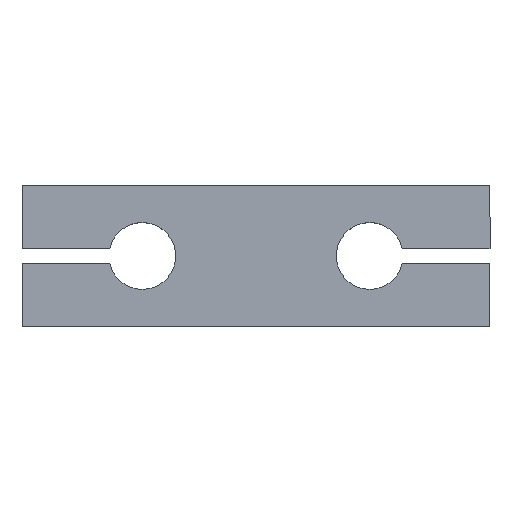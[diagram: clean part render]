
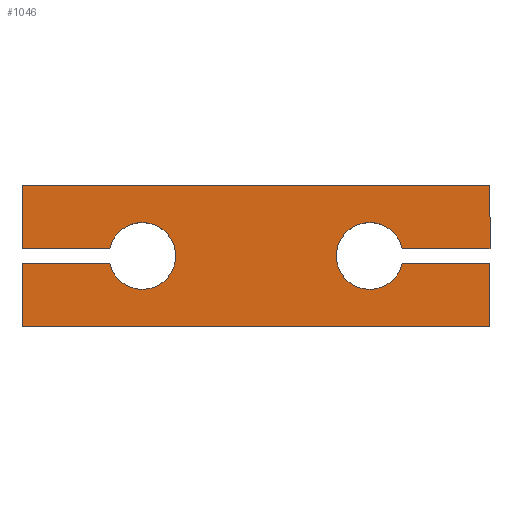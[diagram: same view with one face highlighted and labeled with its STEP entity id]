
A CAD part, top view. The second image highlights one B-rep face of the part: STEP entity #1046.
In plain terms, the highlighted planar face has unit normal (0, 0, 1).
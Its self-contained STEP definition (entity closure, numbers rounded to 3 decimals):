
#15 = CARTESIAN_POINT ( 'NONE',  ( 35., 1.075, 6. ) ) ;
#21 = CARTESIAN_POINT ( 'NONE',  ( 16., -1.075, 6. ) ) ;
#29 = CARTESIAN_POINT ( 'NONE',  ( -12., 0., 6. ) ) ;
#34 = EDGE_CURVE ( 'NONE', #1072, #118, #1099, .T. ) ;
#47 = VERTEX_POINT ( 'NONE', #1141 ) ;
#52 = DIRECTION ( 'NONE',  ( 0., 1., 0. ) ) ;
#53 = EDGE_CURVE ( 'NONE', #708, #404, #696, .T. ) ;
#59 = DIRECTION ( 'NONE',  ( 1., 0., 0. ) ) ;
#61 = CARTESIAN_POINT ( 'NONE',  ( -17., 0., 6. ) ) ;
#76 = ORIENTED_EDGE ( 'NONE', *, *, #546, .F. ) ;
#78 = CARTESIAN_POINT ( 'NONE',  ( 35., 10.5, 6. ) ) ;
#89 = DIRECTION ( 'NONE',  ( 1., 0., 0. ) ) ;
#115 = ORIENTED_EDGE ( 'NONE', *, *, #1030, .T. ) ;
#118 = VERTEX_POINT ( 'NONE', #1073 ) ;
#127 = EDGE_CURVE ( 'NONE', #1065, #789, #530, .T. ) ;
#137 = ORIENTED_EDGE ( 'NONE', *, *, #224, .F. ) ;
#138 = ORIENTED_EDGE ( 'NONE', *, *, #53, .F. ) ;
#147 = CARTESIAN_POINT ( 'NONE',  ( -35., -1.075, 6. ) ) ;
#162 = DIRECTION ( 'NONE',  ( -1., 0., 0. ) ) ;
#165 = DIRECTION ( 'NONE',  ( 0., 0., 1. ) ) ;
#170 = PLANE ( 'NONE',  #998 ) ;
#180 = LINE ( 'NONE', #288, #825 ) ;
#208 = AXIS2_PLACEMENT_3D ( 'NONE', #776, #508, #59 ) ;
#211 = VECTOR ( 'NONE', #405, 1000. ) ;
#224 = EDGE_CURVE ( 'NONE', #749, #1072, #373, .T. ) ;
#252 = CARTESIAN_POINT ( 'NONE',  ( 16., 1.075, 6. ) ) ;
#254 = CARTESIAN_POINT ( 'NONE',  ( -35., 10.5, 6. ) ) ;
#256 = DIRECTION ( 'NONE',  ( 1., 0., 0. ) ) ;
#264 = ORIENTED_EDGE ( 'NONE', *, *, #381, .F. ) ;
#272 = CARTESIAN_POINT ( 'NONE',  ( 21.883, -1.075, 6. ) ) ;
#275 = EDGE_CURVE ( 'NONE', #841, #1065, #1010, .T. ) ;
#277 = ORIENTED_EDGE ( 'NONE', *, *, #1061, .T. ) ;
#279 = VECTOR ( 'NONE', #674, 1000. ) ;
#288 = CARTESIAN_POINT ( 'NONE',  ( -35., 1.075, 6. ) ) ;
#310 = ORIENTED_EDGE ( 'NONE', *, *, #1087, .F. ) ;
#324 = CARTESIAN_POINT ( 'NONE',  ( -35., 10.5, 6. ) ) ;
#347 = VERTEX_POINT ( 'NONE', #272 ) ;
#369 = VECTOR ( 'NONE', #52, 1000. ) ;
#371 = CARTESIAN_POINT ( 'NONE',  ( -21.883, -1.075, 6. ) ) ;
#373 = CIRCLE ( 'NONE', #761, 5. ) ;
#381 = EDGE_CURVE ( 'NONE', #118, #655, #180, .T. ) ;
#385 = ORIENTED_EDGE ( 'NONE', *, *, #901, .T. ) ;
#388 = CARTESIAN_POINT ( 'NONE',  ( -35., 1.075, 6. ) ) ;
#404 = VERTEX_POINT ( 'NONE', #738 ) ;
#405 = DIRECTION ( 'NONE',  ( 1., 0., 0. ) ) ;
#409 = DIRECTION ( 'NONE',  ( 1., 0., 0. ) ) ;
#417 = LINE ( 'NONE', #254, #1013 ) ;
#428 = AXIS2_PLACEMENT_3D ( 'NONE', #1135, #499, #409 ) ;
#429 = DIRECTION ( 'NONE',  ( -1., 0., 0. ) ) ;
#499 = DIRECTION ( 'NONE',  ( 0., 0., 1. ) ) ;
#503 = ORIENTED_EDGE ( 'NONE', *, *, #34, .F. ) ;
#505 = LINE ( 'NONE', #867, #1109 ) ;
#508 = DIRECTION ( 'NONE',  ( 0., 0., 1. ) ) ;
#518 = LINE ( 'NONE', #979, #836 ) ;
#521 = CARTESIAN_POINT ( 'NONE',  ( -35., -10.5, 6. ) ) ;
#530 = LINE ( 'NONE', #521, #611 ) ;
#546 = EDGE_CURVE ( 'NONE', #347, #47, #1128, .T. ) ;
#611 = VECTOR ( 'NONE', #89, 1000. ) ;
#631 = DIRECTION ( 'NONE',  ( 0., -1., 0. ) ) ;
#655 = VERTEX_POINT ( 'NONE', #388 ) ;
#674 = DIRECTION ( 'NONE',  ( 1., 0., 0. ) ) ;
#675 = LINE ( 'NONE', #1042, #369 ) ;
#680 = LINE ( 'NONE', #147, #279 ) ;
#684 = ORIENTED_EDGE ( 'NONE', *, *, #275, .T. ) ;
#687 = CIRCLE ( 'NONE', #208, 5. ) ;
#693 = VECTOR ( 'NONE', #631, 1000. ) ;
#696 = LINE ( 'NONE', #252, #920 ) ;
#708 = VERTEX_POINT ( 'NONE', #15 ) ;
#738 = CARTESIAN_POINT ( 'NONE',  ( 21.883, 1.075, 6. ) ) ;
#749 = VERTEX_POINT ( 'NONE', #371 ) ;
#761 = AXIS2_PLACEMENT_3D ( 'NONE', #61, #165, #256 ) ;
#776 = CARTESIAN_POINT ( 'NONE',  ( 17., 0., 6. ) ) ;
#789 = VERTEX_POINT ( 'NONE', #1105 ) ;
#819 = ORIENTED_EDGE ( 'NONE', *, *, #127, .T. ) ;
#825 = VECTOR ( 'NONE', #831, 1000. ) ;
#831 = DIRECTION ( 'NONE',  ( -1., 0., 0. ) ) ;
#836 = VECTOR ( 'NONE', #880, 1000. ) ;
#839 = DIRECTION ( 'NONE',  ( 0., -1., 0. ) ) ;
#841 = VERTEX_POINT ( 'NONE', #931 ) ;
#867 = CARTESIAN_POINT ( 'NONE',  ( -35., 10.5, 6. ) ) ;
#876 = ORIENTED_EDGE ( 'NONE', *, *, #1037, .T. ) ;
#880 = DIRECTION ( 'NONE',  ( 0., 1., 0. ) ) ;
#884 = VERTEX_POINT ( 'NONE', #324 ) ;
#886 = CARTESIAN_POINT ( 'NONE',  ( 0., 0., 6. ) ) ;
#901 = EDGE_CURVE ( 'NONE', #789, #47, #675, .T. ) ;
#908 = CARTESIAN_POINT ( 'NONE',  ( -35., 10.5, 6. ) ) ;
#920 = VECTOR ( 'NONE', #429, 1000. ) ;
#931 = CARTESIAN_POINT ( 'NONE',  ( -35., -1.075, 6. ) ) ;
#939 = VERTEX_POINT ( 'NONE', #78 ) ;
#951 = DIRECTION ( 'NONE',  ( 0., 0., 1. ) ) ;
#953 = ORIENTED_EDGE ( 'NONE', *, *, #992, .F. ) ;
#979 = CARTESIAN_POINT ( 'NONE',  ( 35., 10.5, 6. ) ) ;
#992 = EDGE_CURVE ( 'NONE', #404, #347, #687, .T. ) ;
#998 = AXIS2_PLACEMENT_3D ( 'NONE', #886, #951, #1045 ) ;
#1010 = LINE ( 'NONE', #908, #693 ) ;
#1013 = VECTOR ( 'NONE', #162, 1000. ) ;
#1027 = CARTESIAN_POINT ( 'NONE',  ( -35., -10.5, 6. ) ) ;
#1030 = EDGE_CURVE ( 'NONE', #939, #884, #417, .T. ) ;
#1037 = EDGE_CURVE ( 'NONE', #708, #939, #518, .T. ) ;
#1042 = CARTESIAN_POINT ( 'NONE',  ( 35., 10.5, 6. ) ) ;
#1045 = DIRECTION ( 'NONE',  ( 1., 0., 0. ) ) ;
#1046 = ADVANCED_FACE ( 'NONE', ( #1157 ), #170, .T. ) ;
#1061 = EDGE_CURVE ( 'NONE', #884, #655, #505, .T. ) ;
#1065 = VERTEX_POINT ( 'NONE', #1027 ) ;
#1072 = VERTEX_POINT ( 'NONE', #29 ) ;
#1073 = CARTESIAN_POINT ( 'NONE',  ( -21.883, 1.075, 6. ) ) ;
#1087 = EDGE_CURVE ( 'NONE', #841, #749, #680, .T. ) ;
#1088 = EDGE_LOOP ( 'NONE', ( #264, #503, #137, #310, #684, #819, #385, #76, #953, #138, #876, #115, #277 ) ) ;
#1099 = CIRCLE ( 'NONE', #428, 5. ) ;
#1105 = CARTESIAN_POINT ( 'NONE',  ( 35., -10.5, 6. ) ) ;
#1109 = VECTOR ( 'NONE', #839, 1000. ) ;
#1128 = LINE ( 'NONE', #21, #211 ) ;
#1135 = CARTESIAN_POINT ( 'NONE',  ( -17., 0., 6. ) ) ;
#1141 = CARTESIAN_POINT ( 'NONE',  ( 35., -1.075, 6. ) ) ;
#1157 = FACE_OUTER_BOUND ( 'NONE', #1088, .T. ) ;
